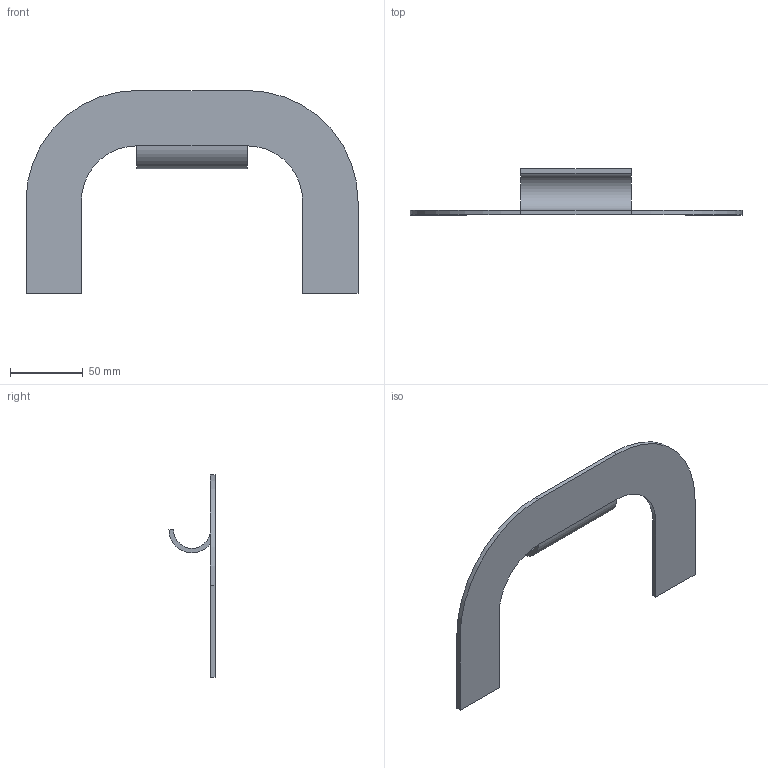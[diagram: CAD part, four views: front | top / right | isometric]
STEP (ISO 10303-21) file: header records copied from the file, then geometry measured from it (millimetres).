
FILE_DESCRIPTION(/* description */ (''),/* implementation_level */ '2;1');
FILE_NAME(/* name */ 'C:\Users\JGG09\Downloads\Carrying Handle (Inventor).stp',/* time_stamp */ '2024-05-18T05:31:53-04:00',/* author */ ('JGG09'),/* organization */ (''),/* preprocessor_version */ 'ST-DEVELOPER v18.1',/* originating_system */ 'Autodesk Inventor 2022',/* authorisation */ '');
FILE_SCHEMA (('AUTOMOTIVE_DESIGN { 1 0 10303 214 3 1 1 }'));
Length unit declared in the file: inch
Products named in the file (1): Carrying Handle (Inventor)
Bounding box: 228.6 x 31.75 x 139.7 mm (x, y, z)
Volume: 57158.7 mm3; surface area: 38962.9 mm2
Topology: 1 solids, 1 shells, 18 faces, 44 edges, 28 vertices
Faces by surface type: plane 12, cylinder 6
Entity records: 573 total; most frequent: DIRECTION 94, CARTESIAN_POINT 91, ORIENTED_EDGE 88, EDGE_CURVE 44, LINE 32, VECTOR 32, AXIS2_PLACEMENT_3D 31, VERTEX_POINT 28
